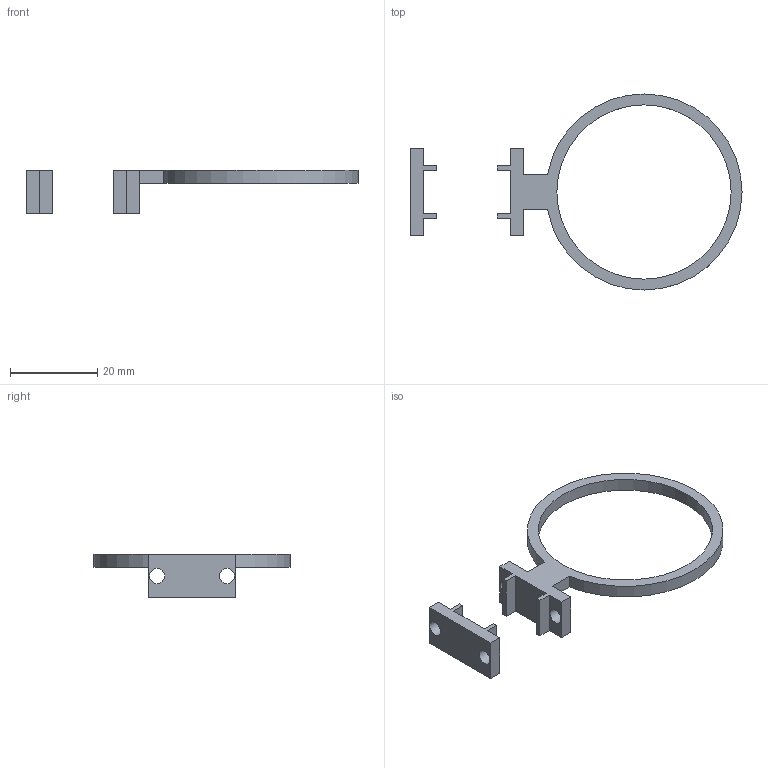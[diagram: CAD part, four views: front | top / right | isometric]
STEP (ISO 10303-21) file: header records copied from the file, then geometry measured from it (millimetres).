
FILE_DESCRIPTION(/* description */ (''),/* implementation_level */ '2;1');
FILE_NAME(/* name */ 'blind_adapter v3.step',/* time_stamp */ '2026-04-10T14:26:06+02:00',/* author */ (''),/* organization */ (''),/* preprocessor_version */ 'ST-DEVELOPER v20.1',/* originating_system */ 'Autodesk Translation Framework v14.24.0.0',/* authorisation */ '');
FILE_SCHEMA (('AUTOMOTIVE_DESIGN { 1 0 10303 214 3 1 1 }'));
Length unit declared in the file: millimetre
Products named in the file (1): (Niezapisany)
Bounding box: 76.21 x 45 x 10 mm (x, y, z)
Volume: 2333.9 mm3; surface area: 3018.2 mm2
Topology: 2 solids, 2 shells, 37 faces, 99 edges, 66 vertices
Faces by surface type: plane 31, cylinder 6
Full cylindrical faces by diameter (mm): 3.5 x4, 40 x1
Entity records: 1197 total; most frequent: CARTESIAN_POINT 203, ORIENTED_EDGE 198, DIRECTION 187, EDGE_CURVE 99, LINE 87, VECTOR 87, VERTEX_POINT 66, AXIS2_PLACEMENT_3D 50
